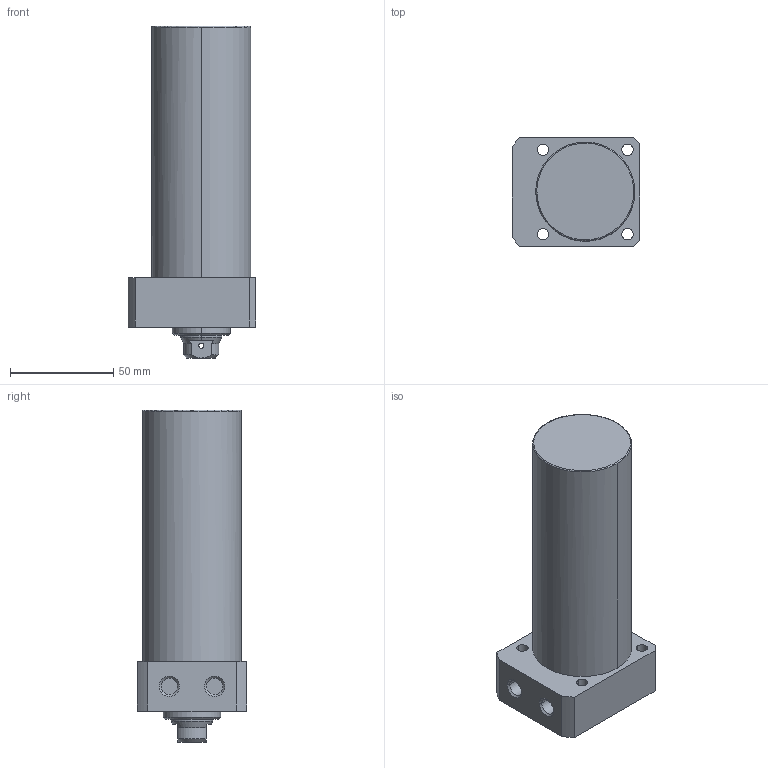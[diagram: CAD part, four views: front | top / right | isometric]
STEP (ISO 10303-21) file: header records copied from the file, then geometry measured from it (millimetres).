
FILE_DESCRIPTION((' '),'2;1');
FILE_NAME( 'TLLR-048CB-095.STEP.stp', '2025-10-24T16:34:33', (' '), ('--- Datakit www.datakit.com---'), ' Datakit CrossCadWare V2024.1 Dec 21 2023', 'Mastercam 2025', ' ');
FILE_SCHEMA(('AUTOMOTIVE_DESIGN { 1 0 10303 214 1 1 1 1 }'));
Length unit declared in the file: millimetre
Products named in the file (1): TLLR-048CB-095
Bounding box: 62 x 53 x 161 mm (x, y, z)
Volume: 299080.2 mm3; surface area: 33799.2 mm2
Topology: 1 solids, 1 shells, 67 faces, 197 edges, 136 vertices
Faces by surface type: cylinder 32, plane 19, cone 14, torus 2
Entity records: 3066 total; most frequent: CARTESIAN_POINT 1147, DIRECTION 426, ORIENTED_EDGE 390, EDGE_CURVE 195, AXIS2_PLACEMENT_3D 179, VERTEX_POINT 136, CIRCLE 111, EDGE_LOOP 85
